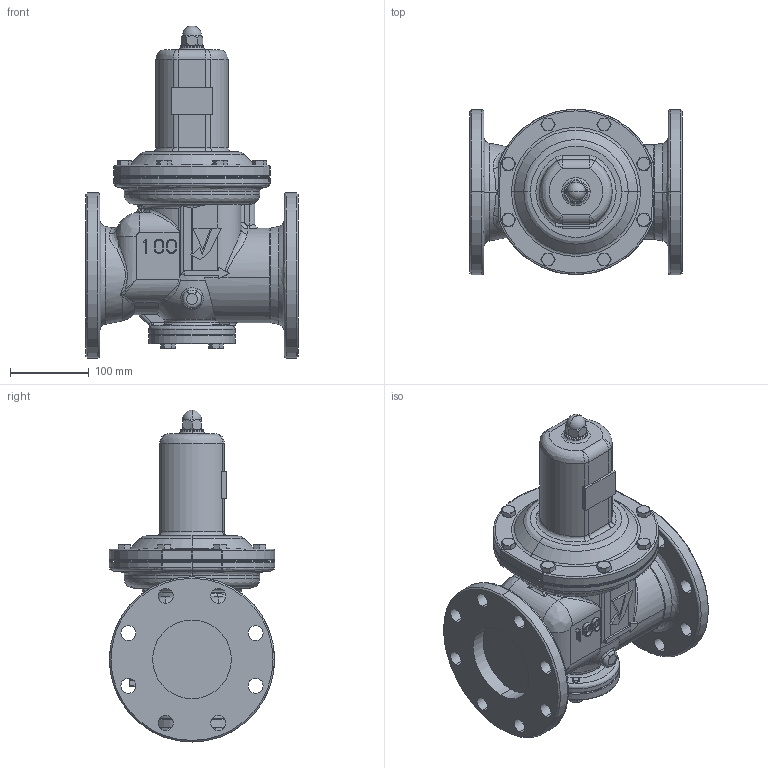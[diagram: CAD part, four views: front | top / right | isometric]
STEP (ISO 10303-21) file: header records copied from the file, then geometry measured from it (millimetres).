
FILE_DESCRIPTION( (''), '2;1');
FILE_NAME ('PC1276.1936.GD-27S-NE 100A_21578.stp','2025-06-13T13:19:59',(''),(''),'spGate 20.6.3 (****-****-****-****)','','');
FILE_SCHEMA (('AUTOMOTIVE_DESIGN'));
Length unit declared in the file: millimetre
Products named in the file (9): Assembly; 弁箱100A; ダイヤフラム; 3Ｄ　保護筒; カバー; プラグ; CP_''_JIS B 1183 六角袋ナット 3形 M''_705; CP_''_JIS B 1180 呼び径六角ボルト''_17166; CP_''_JIS B 1180 呼び径六角ボルト''_M10-25
Assembly tree (18 placements, depth 2):
  Assembly
    弁箱100A
    ダイヤフラム
    3Ｄ　保護筒
    カバー
    プラグ
    CP_''_JIS B 1183 六角袋ナット 3形 M''_705
    CP_''_JIS B 1180 呼び径六角ボルト''_17166  x8
    CP_''_JIS B 1180 呼び径六角ボルト''_M10-25  x4
Bounding box: 270 x 210 x 422 mm (x, y, z)
Volume: 5883991.5 mm3; surface area: 613518.5 mm2
Topology: 18 solids, 18 shells, 839 faces, 2047 edges, 1255 vertices
Faces by surface type: bspline 324, cylinder 250, plane 245, sphere 20
Entity records: 38588 total; most frequent: CARTESIAN_POINT 13431, ORIENTED_EDGE 3060, DIRECTION 2311, COLOUR_RGB 2137, PRESENTATION_STYLE_ASSIGNMENT 2137, STYLED_ITEM 2137, EDGE_CURVE 1530, DRAUGHTING_PRE_DEFINED_CURVE_FONT 1530
